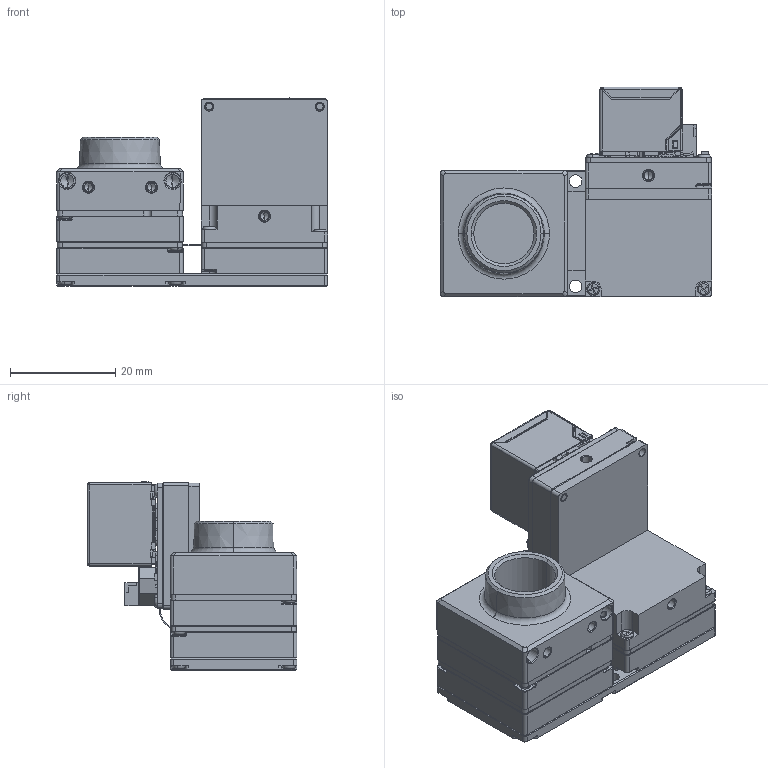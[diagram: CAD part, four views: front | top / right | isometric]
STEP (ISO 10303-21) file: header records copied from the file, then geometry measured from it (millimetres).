
FILE_DESCRIPTION (( 'STEP AP203' ), '1' );
FILE_NAME ('434-018-B_RJ45_180+90.STEP', '2025-04-21T19:18:34', ( '' ), ( '' ), 'SwSTEP 2.0', 'SolidWorks 2021', '' );
FILE_SCHEMA (( 'CONFIG_CONTROL_DESIGN' ));
Length unit declared in the file: millimetre
Products named in the file (1): 434-018-B_RJ45_180+90
Bounding box: 51.51 x 39.81 x 35.75 mm (x, y, z)
Volume: 15742.3 mm3; surface area: 25260 mm2
Topology: 61 solids, 61 shells, 5445 faces, 14105 edges, 8698 vertices
Faces by surface type: plane 3095, cylinder 1388, cone 394, bspline 316, torus 166, sphere 86
Entity records: 169686 total; most frequent: CARTESIAN_POINT 38359, ORIENTED_EDGE 27838, DIRECTION 26542, EDGE_CURVE 13919, VECTOR 9832, LINE 9832, VERTEX_POINT 8692, AXIS2_PLACEMENT_3D 8355
